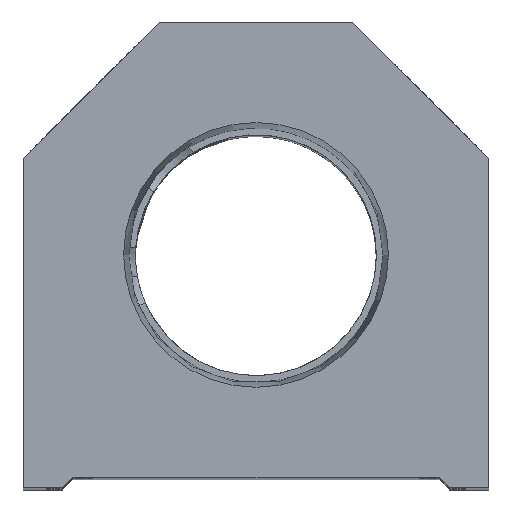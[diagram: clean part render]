
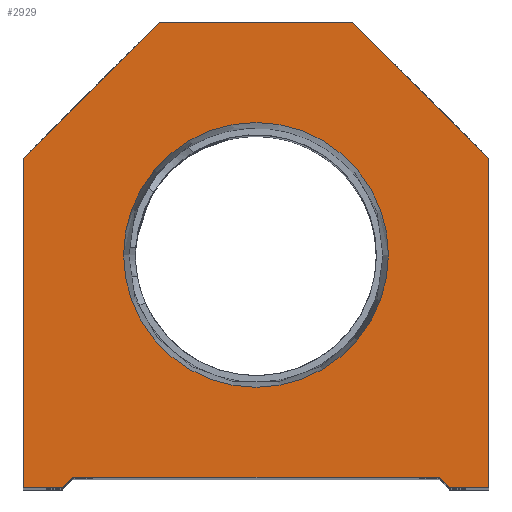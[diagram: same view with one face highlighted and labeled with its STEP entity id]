
A CAD part, top view. The second image highlights one B-rep face of the part: STEP entity #2929.
In plain terms, the highlighted planar face has unit normal (0, 0, 1).
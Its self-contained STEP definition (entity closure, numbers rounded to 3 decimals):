
#61 = CARTESIAN_POINT ( 'NONE',  ( -9.25, 9.25, 0. ) ) ;
#384 = EDGE_CURVE ( 'NONE', #4952, #391, #7985, .T. ) ;
#391 = VERTEX_POINT ( 'NONE', #12164 ) ;
#416 = DIRECTION ( 'NONE',  ( 0., 0., 1. ) ) ;
#714 = ORIENTED_EDGE ( 'NONE', *, *, #10524, .F. ) ;
#918 = VERTEX_POINT ( 'NONE', #7245 ) ;
#1142 = DIRECTION ( 'NONE',  ( 0., 0., 1. ) ) ;
#1203 = LINE ( 'NONE', #6779, #11782 ) ;
#1798 = ORIENTED_EDGE ( 'NONE', *, *, #9630, .T. ) ;
#1848 = CARTESIAN_POINT ( 'NONE',  ( -22.25, 0., 0. ) ) ;
#1860 = LINE ( 'NONE', #5806, #5880 ) ;
#2089 = VERTEX_POINT ( 'NONE', #3425 ) ;
#2147 = EDGE_CURVE ( 'NONE', #12778, #13531, #8394, .T. ) ;
#2217 = AXIS2_PLACEMENT_3D ( 'NONE', #2422, #416, #7997 ) ;
#2269 = CARTESIAN_POINT ( 'NONE',  ( 17.5, 0., 0. ) ) ;
#2287 = DIRECTION ( 'NONE',  ( 0.707, 0.707, 0. ) ) ;
#2327 = LINE ( 'NONE', #6685, #13944 ) ;
#2422 = CARTESIAN_POINT ( 'NONE',  ( 0., 22.25, 0. ) ) ;
#2772 = DIRECTION ( 'NONE',  ( 1., 0., 0. ) ) ;
#2880 = EDGE_CURVE ( 'NONE', #391, #14131, #1860, .T. ) ;
#2929 = ADVANCED_FACE ( 'NONE', ( #12102, #11958 ), #5419, .T. ) ;
#2955 = EDGE_CURVE ( 'NONE', #10568, #2970, #10809, .T. ) ;
#2970 = VERTEX_POINT ( 'NONE', #13245 ) ;
#2992 = CARTESIAN_POINT ( 'NONE',  ( -18.5, 0., 0. ) ) ;
#3114 = CARTESIAN_POINT ( 'NONE',  ( 17.5, 1., 0. ) ) ;
#3126 = EDGE_CURVE ( 'NONE', #918, #12986, #9220, .T. ) ;
#3180 = LINE ( 'NONE', #5383, #9566 ) ;
#3421 = CARTESIAN_POINT ( 'NONE',  ( 12.647, 22.25, 0. ) ) ;
#3425 = CARTESIAN_POINT ( 'NONE',  ( 9.25, 44.5, 0. ) ) ;
#3680 = EDGE_CURVE ( 'NONE', #2089, #4539, #3180, .T. ) ;
#3686 = DIRECTION ( 'NONE',  ( -0.707, 0.707, 0. ) ) ;
#3781 = ORIENTED_EDGE ( 'NONE', *, *, #384, .T. ) ;
#3784 = VECTOR ( 'NONE', #13155, 1000. ) ;
#4018 = ORIENTED_EDGE ( 'NONE', *, *, #2880, .T. ) ;
#4341 = DIRECTION ( 'NONE',  ( 1., 0., 0. ) ) ;
#4539 = VERTEX_POINT ( 'NONE', #12593 ) ;
#4764 = VERTEX_POINT ( 'NONE', #3114 ) ;
#4952 = VERTEX_POINT ( 'NONE', #11489 ) ;
#5220 = EDGE_LOOP ( 'NONE', ( #714, #8608 ) ) ;
#5268 = CARTESIAN_POINT ( 'NONE',  ( -12.647, 22.25, 0. ) ) ;
#5382 = ORIENTED_EDGE ( 'NONE', *, *, #7972, .T. ) ;
#5383 = CARTESIAN_POINT ( 'NONE',  ( 9.25, 44.5, 0. ) ) ;
#5419 = PLANE ( 'NONE',  #9999 ) ;
#5520 = LINE ( 'NONE', #8610, #12373 ) ;
#5629 = LINE ( 'NONE', #9796, #13954 ) ;
#5806 = CARTESIAN_POINT ( 'NONE',  ( 22.25, 0., 0. ) ) ;
#5880 = VECTOR ( 'NONE', #13681, 1000. ) ;
#6323 = CARTESIAN_POINT ( 'NONE',  ( 22.25, 31.5, 0. ) ) ;
#6329 = ORIENTED_EDGE ( 'NONE', *, *, #10379, .T. ) ;
#6685 = CARTESIAN_POINT ( 'NONE',  ( -22.25, 31.5, 0. ) ) ;
#6779 = CARTESIAN_POINT ( 'NONE',  ( -17.5, 0., 0. ) ) ;
#6828 = LINE ( 'NONE', #10199, #9593 ) ;
#6837 = CARTESIAN_POINT ( 'NONE',  ( -22.25, 0., 0. ) ) ;
#6998 = ORIENTED_EDGE ( 'NONE', *, *, #3126, .T. ) ;
#7135 = DIRECTION ( 'NONE',  ( 0., -1., 0. ) ) ;
#7245 = CARTESIAN_POINT ( 'NONE',  ( -22.25, 31.5, 0. ) ) ;
#7723 = VECTOR ( 'NONE', #7135, 1000. ) ;
#7972 = EDGE_CURVE ( 'NONE', #4539, #918, #2327, .T. ) ;
#7985 = LINE ( 'NONE', #2269, #3784 ) ;
#7997 = DIRECTION ( 'NONE',  ( 1., 0., 0. ) ) ;
#8030 = EDGE_CURVE ( 'NONE', #14131, #2089, #6828, .T. ) ;
#8282 = DIRECTION ( 'NONE',  ( 0., 0., 1. ) ) ;
#8394 = CIRCLE ( 'NONE', #2217, 12.647 ) ;
#8425 = EDGE_LOOP ( 'NONE', ( #6329, #11847, #13920, #1798, #3781, #4018, #13733, #9554, #5382, #6998 ) ) ;
#8482 = EDGE_CURVE ( 'NONE', #2970, #4764, #5629, .T. ) ;
#8562 = AXIS2_PLACEMENT_3D ( 'NONE', #11589, #8282, #2772 ) ;
#8608 = ORIENTED_EDGE ( 'NONE', *, *, #2147, .F. ) ;
#8610 = CARTESIAN_POINT ( 'NONE',  ( 9.25, 9.25, 0. ) ) ;
#9001 = DIRECTION ( 'NONE',  ( 1., 0., 0. ) ) ;
#9220 = LINE ( 'NONE', #1848, #7723 ) ;
#9239 = CIRCLE ( 'NONE', #8562, 12.647 ) ;
#9554 = ORIENTED_EDGE ( 'NONE', *, *, #3680, .T. ) ;
#9566 = VECTOR ( 'NONE', #9769, 1000. ) ;
#9593 = VECTOR ( 'NONE', #3686, 1000. ) ;
#9630 = EDGE_CURVE ( 'NONE', #4764, #4952, #5520, .T. ) ;
#9763 = DIRECTION ( 'NONE',  ( 0.707, -0.707, 0. ) ) ;
#9769 = DIRECTION ( 'NONE',  ( -1., 0., 0. ) ) ;
#9796 = CARTESIAN_POINT ( 'NONE',  ( -17.5, 1., 0. ) ) ;
#9805 = DIRECTION ( 'NONE',  ( 1., 0., 0. ) ) ;
#9999 = AXIS2_PLACEMENT_3D ( 'NONE', #10954, #1142, #9805 ) ;
#10199 = CARTESIAN_POINT ( 'NONE',  ( 22.25, 31.5, 0. ) ) ;
#10379 = EDGE_CURVE ( 'NONE', #12986, #10568, #1203, .T. ) ;
#10524 = EDGE_CURVE ( 'NONE', #13531, #12778, #9239, .T. ) ;
#10568 = VERTEX_POINT ( 'NONE', #2992 ) ;
#10809 = LINE ( 'NONE', #61, #13667 ) ;
#10954 = CARTESIAN_POINT ( 'NONE',  ( 0., 0., 0. ) ) ;
#11069 = DIRECTION ( 'NONE',  ( -0.707, -0.707, 0. ) ) ;
#11489 = CARTESIAN_POINT ( 'NONE',  ( 18.5, 0., 0. ) ) ;
#11589 = CARTESIAN_POINT ( 'NONE',  ( 0., 22.25, 0. ) ) ;
#11782 = VECTOR ( 'NONE', #9001, 1000. ) ;
#11847 = ORIENTED_EDGE ( 'NONE', *, *, #2955, .T. ) ;
#11958 = FACE_OUTER_BOUND ( 'NONE', #8425, .T. ) ;
#12102 = FACE_BOUND ( 'NONE', #5220, .T. ) ;
#12164 = CARTESIAN_POINT ( 'NONE',  ( 22.25, 0., 0. ) ) ;
#12373 = VECTOR ( 'NONE', #9763, 1000. ) ;
#12593 = CARTESIAN_POINT ( 'NONE',  ( -9.25, 44.5, 0. ) ) ;
#12778 = VERTEX_POINT ( 'NONE', #5268 ) ;
#12986 = VERTEX_POINT ( 'NONE', #6837 ) ;
#13155 = DIRECTION ( 'NONE',  ( 1., 0., 0. ) ) ;
#13245 = CARTESIAN_POINT ( 'NONE',  ( -17.5, 1., 0. ) ) ;
#13531 = VERTEX_POINT ( 'NONE', #3421 ) ;
#13667 = VECTOR ( 'NONE', #2287, 1000. ) ;
#13681 = DIRECTION ( 'NONE',  ( 0., 1., 0. ) ) ;
#13733 = ORIENTED_EDGE ( 'NONE', *, *, #8030, .T. ) ;
#13920 = ORIENTED_EDGE ( 'NONE', *, *, #8482, .T. ) ;
#13944 = VECTOR ( 'NONE', #11069, 1000. ) ;
#13954 = VECTOR ( 'NONE', #4341, 1000. ) ;
#14131 = VERTEX_POINT ( 'NONE', #6323 ) ;
